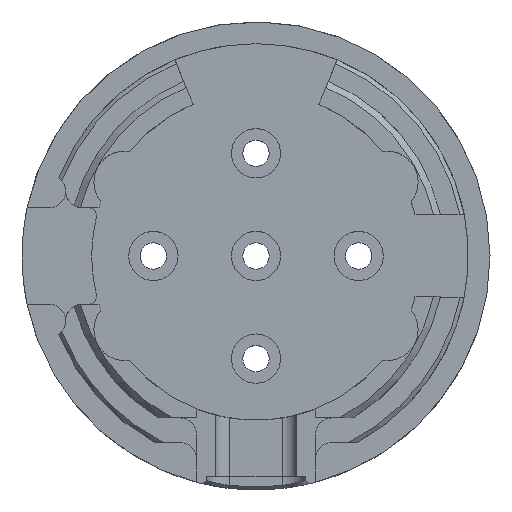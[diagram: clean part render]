
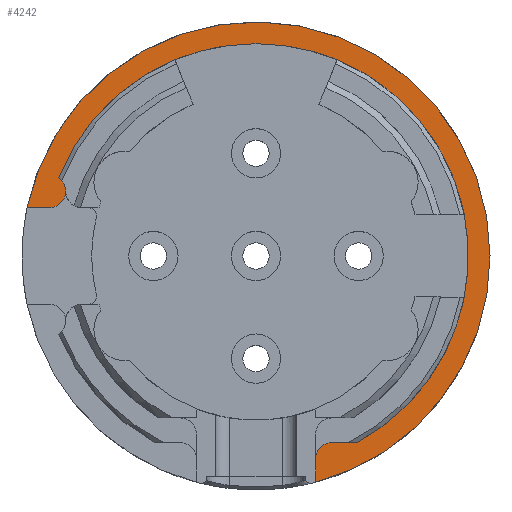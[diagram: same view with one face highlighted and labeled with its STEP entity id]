
A CAD part, top view. The second image highlights one B-rep face of the part: STEP entity #4242.
In plain terms, the highlighted planar face has unit normal (0, 0, 1).
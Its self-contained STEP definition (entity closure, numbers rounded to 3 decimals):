
#12 = VERTEX_POINT ( 'NONE', #2653 ) ;
#30 = CIRCLE ( 'NONE', #4672, 2. ) ;
#47 = DIRECTION ( 'NONE',  ( 1., 0., 0. ) ) ;
#149 = LINE ( 'NONE', #1494, #809 ) ;
#212 = EDGE_CURVE ( 'NONE', #12, #4533, #2916, .T. ) ;
#225 = CARTESIAN_POINT ( 'NONE',  ( -24.032, 9.523, -28. ) ) ;
#234 = CARTESIAN_POINT ( 'NONE',  ( 12.344, -22.713, -28. ) ) ;
#255 = VERTEX_POINT ( 'NONE', #1423 ) ;
#282 = DIRECTION ( 'NONE',  ( 0., 1., 0. ) ) ;
#536 = CIRCLE ( 'NONE', #1867, 28.5 ) ;
#601 = CARTESIAN_POINT ( 'NONE',  ( 0., 25.85, -28. ) ) ;
#621 = CIRCLE ( 'NONE', #5539, 2. ) ;
#681 = DIRECTION ( 'NONE',  ( 0., 0., -1. ) ) ;
#789 = CARTESIAN_POINT ( 'NONE',  ( 28.5, 0., -28. ) ) ;
#809 = VECTOR ( 'NONE', #282, 1000. ) ;
#838 = DIRECTION ( 'NONE',  ( 0., 0., -1. ) ) ;
#848 = VECTOR ( 'NONE', #1848, 1000. ) ;
#877 = EDGE_CURVE ( 'NONE', #5025, #4533, #149, .T. ) ;
#936 = EDGE_CURVE ( 'NONE', #5304, #4760, #1369, .T. ) ;
#1035 = VERTEX_POINT ( 'NONE', #789 ) ;
#1235 = ORIENTED_EDGE ( 'NONE', *, *, #936, .F. ) ;
#1249 = EDGE_LOOP ( 'NONE', ( #3904, #4909, #3312, #3227, #1235, #2848, #2642, #5348, #1895, #3527 ) ) ;
#1369 = CIRCLE ( 'NONE', #5143, 25.85 ) ;
#1423 = CARTESIAN_POINT ( 'NONE',  ( -25.172, 5.88, -28. ) ) ;
#1429 = CARTESIAN_POINT ( 'NONE',  ( -25.172, 7.88, -28. ) ) ;
#1463 = CARTESIAN_POINT ( 'NONE',  ( -25.172, 7.88, -28. ) ) ;
#1494 = CARTESIAN_POINT ( 'NONE',  ( 7.25, -18.64, -28. ) ) ;
#1550 = EDGE_CURVE ( 'NONE', #4122, #255, #621, .T. ) ;
#1627 = EDGE_CURVE ( 'NONE', #1633, #1035, #3654, .T. ) ;
#1633 = VERTEX_POINT ( 'NONE', #3381 ) ;
#1752 = FACE_OUTER_BOUND ( 'NONE', #1249, .T. ) ;
#1814 = PLANE ( 'NONE',  #4009 ) ;
#1824 = LINE ( 'NONE', #3625, #848 ) ;
#1848 = DIRECTION ( 'NONE',  ( -1., 0., 0. ) ) ;
#1867 = AXIS2_PLACEMENT_3D ( 'NONE', #5781, #838, #5721 ) ;
#1888 = EDGE_CURVE ( 'NONE', #12, #5304, #2996, .T. ) ;
#1891 = CARTESIAN_POINT ( 'NONE',  ( 7.25, -22.713, -28. ) ) ;
#1895 = ORIENTED_EDGE ( 'NONE', *, *, #2612, .F. ) ;
#1966 = DIRECTION ( 'NONE',  ( 0., 0., 1. ) ) ;
#1989 = CARTESIAN_POINT ( 'NONE',  ( 7.25, -27.562, -28. ) ) ;
#2178 = DIRECTION ( 'NONE',  ( -1., 0., 0. ) ) ;
#2397 = DIRECTION ( 'NONE',  ( 0., 0., 1. ) ) ;
#2470 = CARTESIAN_POINT ( 'NONE',  ( 0., 0., -28. ) ) ;
#2612 = EDGE_CURVE ( 'NONE', #1035, #5025, #536, .T. ) ;
#2642 = ORIENTED_EDGE ( 'NONE', *, *, #212, .T. ) ;
#2653 = CARTESIAN_POINT ( 'NONE',  ( 9.25, -22.713, -28. ) ) ;
#2680 = DIRECTION ( 'NONE',  ( 1., 0., 0. ) ) ;
#2717 = VECTOR ( 'NONE', #5049, 1000. ) ;
#2848 = ORIENTED_EDGE ( 'NONE', *, *, #1888, .F. ) ;
#2855 = VERTEX_POINT ( 'NONE', #225 ) ;
#2866 = CARTESIAN_POINT ( 'NONE',  ( 0., 0., -28. ) ) ;
#2879 = AXIS2_PLACEMENT_3D ( 'NONE', #4002, #5805, #2178 ) ;
#2916 = CIRCLE ( 'NONE', #4231, 2. ) ;
#2996 = LINE ( 'NONE', #1891, #2717 ) ;
#3026 = CARTESIAN_POINT ( 'NONE',  ( -23.172, 7.88, -28. ) ) ;
#3227 = ORIENTED_EDGE ( 'NONE', *, *, #4235, .F. ) ;
#3312 = ORIENTED_EDGE ( 'NONE', *, *, #4820, .F. ) ;
#3381 = CARTESIAN_POINT ( 'NONE',  ( -27.887, 5.88, -28. ) ) ;
#3431 = EDGE_CURVE ( 'NONE', #255, #1633, #1824, .T. ) ;
#3527 = ORIENTED_EDGE ( 'NONE', *, *, #1627, .F. ) ;
#3546 = CARTESIAN_POINT ( 'NONE',  ( 7.25, -24.713, -28. ) ) ;
#3560 = DIRECTION ( 'NONE',  ( 0., 0., 1. ) ) ;
#3625 = CARTESIAN_POINT ( 'NONE',  ( -25.172, 5.88, -28. ) ) ;
#3654 = CIRCLE ( 'NONE', #5827, 28.5 ) ;
#3775 = DIRECTION ( 'NONE',  ( -1., 0., 0. ) ) ;
#3904 = ORIENTED_EDGE ( 'NONE', *, *, #3431, .F. ) ;
#4002 = CARTESIAN_POINT ( 'NONE',  ( 0., 0., -28. ) ) ;
#4009 = AXIS2_PLACEMENT_3D ( 'NONE', #4506, #3560, #2680 ) ;
#4073 = DIRECTION ( 'NONE',  ( 0., 0., -1. ) ) ;
#4122 = VERTEX_POINT ( 'NONE', #3026 ) ;
#4231 = AXIS2_PLACEMENT_3D ( 'NONE', #5450, #2397, #47 ) ;
#4235 = EDGE_CURVE ( 'NONE', #4760, #2855, #5228, .T. ) ;
#4242 = ADVANCED_FACE ( 'NONE', ( #1752 ), #1814, .T. ) ;
#4256 = DIRECTION ( 'NONE',  ( 1., 0., 0. ) ) ;
#4506 = CARTESIAN_POINT ( 'NONE',  ( -8.7, -27.275, -28. ) ) ;
#4533 = VERTEX_POINT ( 'NONE', #3546 ) ;
#4634 = DIRECTION ( 'NONE',  ( 0., 0., -1. ) ) ;
#4672 = AXIS2_PLACEMENT_3D ( 'NONE', #1463, #4634, #4256 ) ;
#4760 = VERTEX_POINT ( 'NONE', #601 ) ;
#4820 = EDGE_CURVE ( 'NONE', #2855, #4122, #30, .T. ) ;
#4909 = ORIENTED_EDGE ( 'NONE', *, *, #1550, .F. ) ;
#5025 = VERTEX_POINT ( 'NONE', #1989 ) ;
#5049 = DIRECTION ( 'NONE',  ( 1., 0., 0. ) ) ;
#5143 = AXIS2_PLACEMENT_3D ( 'NONE', #2866, #1966, #3775 ) ;
#5228 = CIRCLE ( 'NONE', #2879, 25.85 ) ;
#5304 = VERTEX_POINT ( 'NONE', #234 ) ;
#5348 = ORIENTED_EDGE ( 'NONE', *, *, #877, .F. ) ;
#5427 = DIRECTION ( 'NONE',  ( 1., 0., 0. ) ) ;
#5450 = CARTESIAN_POINT ( 'NONE',  ( 9.25, -24.713, -28. ) ) ;
#5539 = AXIS2_PLACEMENT_3D ( 'NONE', #1429, #4073, #5427 ) ;
#5594 = DIRECTION ( 'NONE',  ( -1., 0., 0. ) ) ;
#5721 = DIRECTION ( 'NONE',  ( -1., 0., 0. ) ) ;
#5781 = CARTESIAN_POINT ( 'NONE',  ( 0., 0., -28. ) ) ;
#5805 = DIRECTION ( 'NONE',  ( 0., 0., 1. ) ) ;
#5827 = AXIS2_PLACEMENT_3D ( 'NONE', #2470, #681, #5594 ) ;
